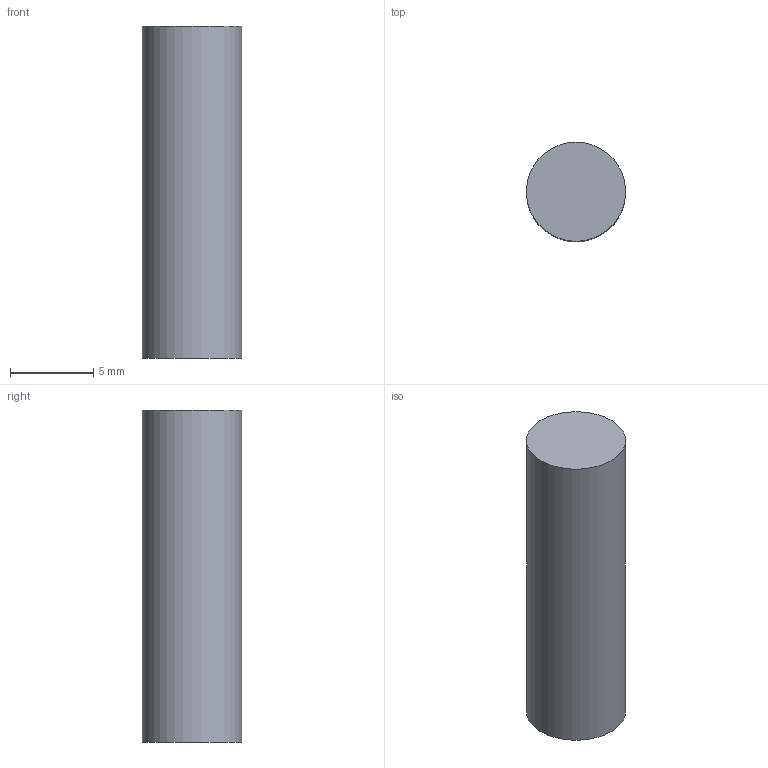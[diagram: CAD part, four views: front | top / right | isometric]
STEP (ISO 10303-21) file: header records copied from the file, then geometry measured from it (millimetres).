
FILE_DESCRIPTION(('Open CASCADE Model'),'2;1');
FILE_NAME('Open CASCADE Shape Model','2026-10-28T05:16:18',('Author'),( 'Open CASCADE'),'Open CASCADE STEP processor 7.8','Open CASCADE 7.8' ,'Unknown');
FILE_SCHEMA(('AUTOMOTIVE_DESIGN { 1 0 10303 214 1 1 1 1 }'));
Length unit declared in the file: millimetre
Products named in the file (1): Open CASCADE STEP translator 7.8 7
Bounding box: 5.98 x 5.98 x 20 mm (x, y, z)
Volume: 561.7 mm3; surface area: 431.9 mm2
Topology: 1 solids, 1 shells, 3 faces, 3 edges, 2 vertices
Faces by surface type: plane 2, cylinder 1
Full cylindrical faces by diameter (mm): 5.98 x1
Entity records: 108 total; most frequent: DIRECTION 19, CARTESIAN_POINT 15, AXIS2_PLACEMENT_3D 6, ORIENTED_EDGE 6, PCURVE 6, DEFINITIONAL_REPRESENTATION 6, LINE 5, VECTOR 5
